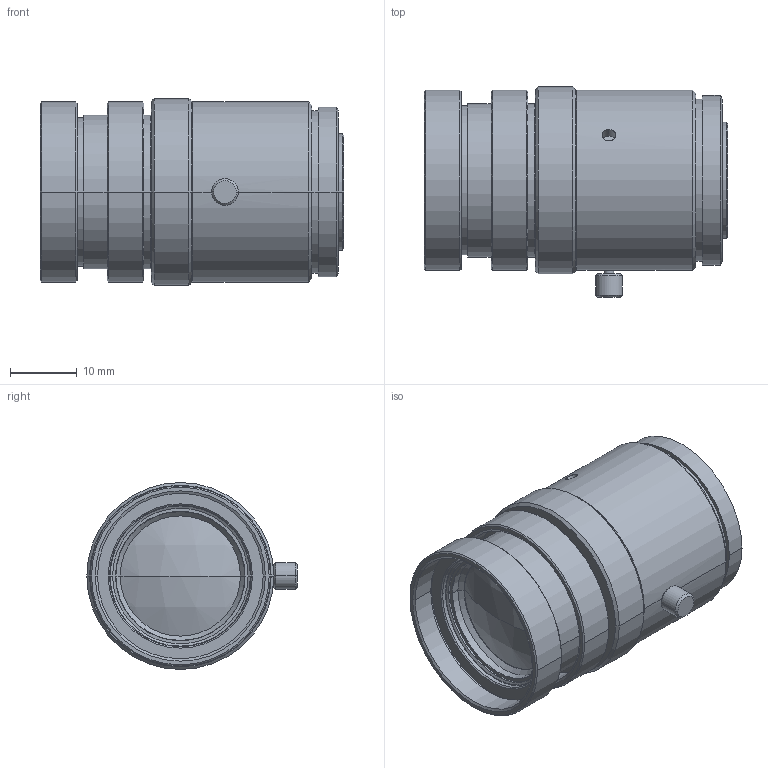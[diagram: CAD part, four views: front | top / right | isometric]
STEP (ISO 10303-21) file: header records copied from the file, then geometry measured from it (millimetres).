
FILE_DESCRIPTION (( 'STEP AP214' ), '1' );
FILE_NAME ('M1611-MPW2-R.STEP', '2021-04-19T23:31:42', ( '' ), ( '' ), 'SwSTEP 2.0', 'SolidWorks 2021', '' );
FILE_SCHEMA (( 'AUTOMOTIVE_DESIGN' ));
Length unit declared in the file: millimetre
Products named in the file (4): ロックビス; M1611-MPW2-R; M1611-MPW2-R_MechanicalLimit; M1611-MPW2-R_Infinity
Assembly tree (3 placements, depth 2):
  M1611-MPW2-R
    M1611-MPW2-R_Infinity
    M1611-MPW2-R_MechanicalLimit
    ロックビス
Bounding box: 45.4 x 31.5 x 28 mm (x, y, z)
Volume: 32359.7 mm3; surface area: 13857.5 mm2
Topology: 3 solids, 3 shells, 248 faces, 492 edges, 294 vertices
Faces by surface type: cylinder 98, cone 94, plane 48, sphere 8
Entity records: 9258 total; most frequent: DIRECTION 1274, CARTESIAN_POINT 1232, ORIENTED_EDGE 984, AXIS2_PLACEMENT_3D 540, EDGE_CURVE 492, VERTEX_POINT 294, EDGE_LOOP 292, CIRCLE 286
